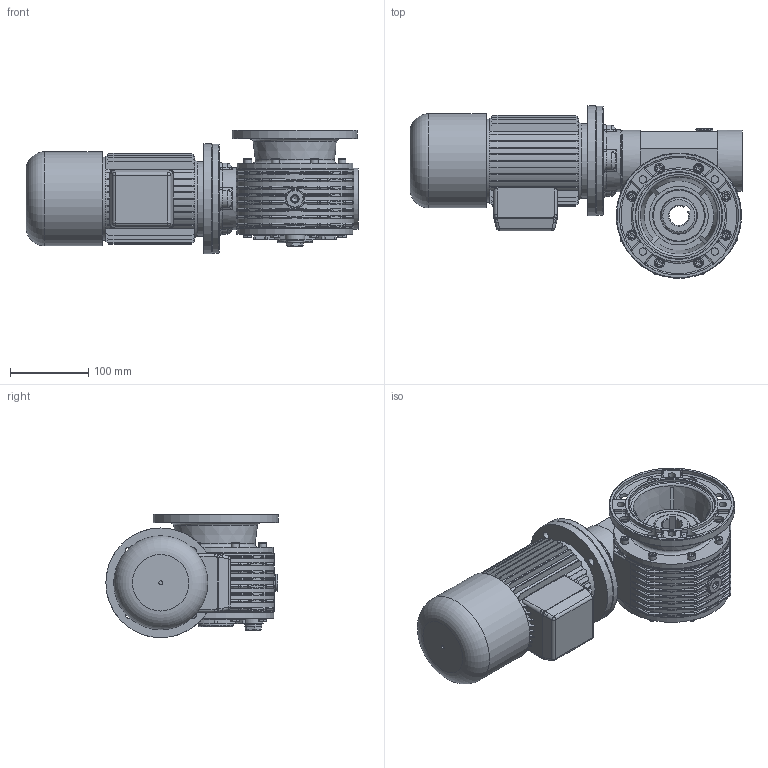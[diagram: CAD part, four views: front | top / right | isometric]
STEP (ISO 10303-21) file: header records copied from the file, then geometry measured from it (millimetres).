
FILE_DESCRIPTION((''),'2;1');
FILE_NAME('Y:\Archivi Inventor\Prog_01\GRAND_30\Figurini\MRV30 sito\63 Autofrenante\MRV30_F1_63_B5.stp','2013-02-06T09:00:53',('tech3'),(''),'Autodesk Inventor 2013','Autodesk Inventor 2013','');
FILE_SCHEMA(('AUTOMOTIVE_DESIGN { 1 0 10303 214 1 1 1 1 }'));
Length unit declared in the file: millimetre
Products named in the file (18): MRV30_63_B5; MRV30; 0103001-A2 fig; 0103008.A1 fig F=25; PARAOLIO 45x65x10; RCA_52x7; Guarnizione 3_8 GAS; Tappo 3_8 GAS_esagn_incsst; 0103029; DIN EN 24017 M6 x 20; 0103028; 0103002-A0 fig; 0103003.A0 fig; DIN EN ISO 4762 M6 x 16; Tappo3_8 GAS; UNI 5931 M 8 x  25; 0103006; motori B5 brake 63
Assembly tree (39 placements, depth 3):
  MRV30_63_B5
    MRV30
      0103001-A2 fig
      0103008.A1 fig F=25
      PARAOLIO 45x65x10  x2
      RCA_52x7
      Guarnizione 3_8 GAS  x3
      Tappo 3_8 GAS_esagn_incsst  x2
      0103029  x2
      DIN EN 24017 M6 x 20  x8
      0103028
      0103002-A0 fig
      0103003.A0 fig
      DIN EN ISO 4762 M6 x 16  x8
      Tappo3_8 GAS
      UNI 5931 M 8 x  25  x4
    0103006
    motori B5 brake 63
Bounding box: 423.4 x 219.7 x 157.35 mm (x, y, z)
Volume: 3940437.9 mm3; surface area: 682182.6 mm2
Topology: 39 solids, 42 shells, 1991 faces, 4807 edges, 2877 vertices
Faces by surface type: plane 902, cylinder 607, torus 201, bspline 122, cone 119, sphere 40
Full cylindrical faces by diameter (mm): 2 x2, 4.917 x16, 5 x1, 6 x16, 6.5 x24, 6.647 x4, 7 x8, 8 x6, 8.5 x8, 8.88 x8, 9 x4, 9.5 x8, 10 x8, 11 x9, 13 x12, 13.046 x1, 14.95 x3, 16.3 x3, 16.5 x2, 22 x6, 25 x1, 43 x1, 45 x6, 45.76 x1, 50.881 x2, 52 x6, 55 x1, 60.5 x2, 65 x4, 77 x1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
Entity records: 55143 total; most frequent: CARTESIAN_POINT 16453, DIRECTION 8216, ORIENTED_EDGE 7508, EDGE_CURVE 3754, AXIS2_PLACEMENT_3D 3260, VERTEX_POINT 2391, EDGE_LOOP 2046, VECTOR 1696
